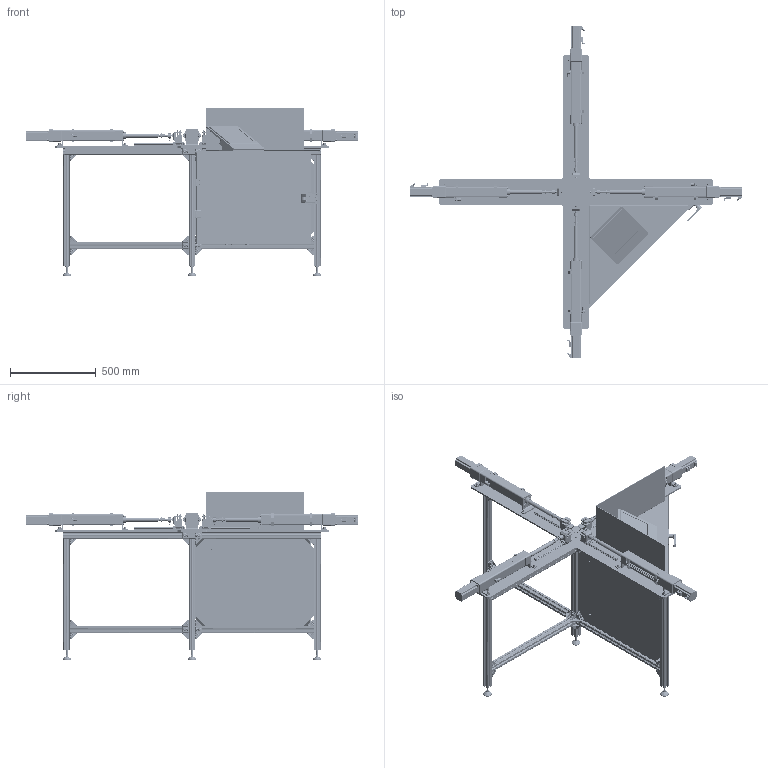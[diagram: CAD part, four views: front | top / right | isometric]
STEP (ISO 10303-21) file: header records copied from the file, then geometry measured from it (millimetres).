
FILE_DESCRIPTION(/* description */ (''),/* implementation_level */ '2;1');
FILE_NAME(/* name */ '1 - PlanarBiaxialTest.stp',/* time_stamp */ '2021-06-11T20:21:29-03:00',/* author */ (''),/* organization */ (''),/* preprocessor_version */ 'ST-DEVELOPER v16.7',/* originating_system */ 'SIEMENS PLM Software NX 12.0',/* authorisation */ '');
FILE_SCHEMA (('AUTOMOTIVE_DESIGN { 1 0 10303 214 3 1 1 1 }'));
Products named in the file (1): Brun20CCDD4Ek8qq
Bounding box: 1937.5 x 1937.5 x 983.4 mm (x, y, z)
Volume: 33565324.6 mm3; surface area: 14817900.3 mm2
Topology: 572 solids, 772 shells, 35702 faces, 94254 edges, 60851 vertices
Faces by surface type: plane 20099, cylinder 6728, bspline 4201, cone 2814, torus 1250, extrusion 467, sphere 143
Full cylindrical faces by diameter (mm): 3.2 x16, 3.5 x20, 4.5 x24, 5 x8, 5.2 x18, 5.8 x4, 6 x26, 6.3 x8, 6.4 x8, 6.5 x18, 6.6 x17, 7 x11, 7.2 x16, 7.5 x20, 8 x28, 8.5 x20, 9.2 x4, 10 x2, 10.4 x18, 10.5 x8, 13 x16, 13.4 x16, 100 x1
Entity records: 1552100 total; most frequent: CARTESIAN_POINT 650279, ORIENTED_EDGE 185476, DIRECTION 166497, EDGE_CURVE 93082, VERTEX_POINT 60440, VECTOR 59979, LINE 59512, AXIS2_PLACEMENT_3D 53259
